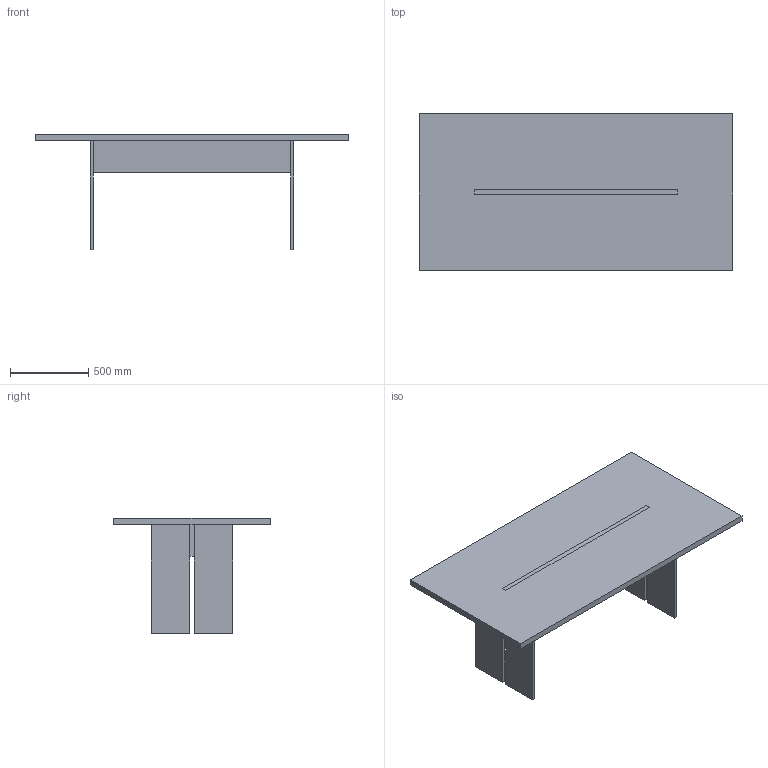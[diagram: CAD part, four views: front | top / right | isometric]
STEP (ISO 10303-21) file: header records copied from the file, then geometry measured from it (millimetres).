
FILE_DESCRIPTION(/* description */ (''),/* implementation_level */ '2;1');
FILE_NAME(/* name */ 'LLT_WOOD_200x100',/* time_stamp */ '2016-06-09T11:54:05+02:00',/* author */ (''),/* organization */ (''),/* preprocessor_version */ 'ST-DEVELOPER v10',/* originating_system */ '',/* authorisation */ '');
FILE_SCHEMA (('CONFIG_CONTROL_DESIGN'));
Length unit declared in the file: millimetre
Products named in the file (1): 1
Bounding box: 2000 x 1000 x 735 mm (x, y, z)
Volume: 100714490 mm3; surface area: 6487024 mm2
Topology: 6 solids, 6 shells, 40 faces, 84 edges, 56 vertices
Faces by surface type: plane 40
Entity records: 1004 total; most frequent: CARTESIAN_POINT 266, ORIENTED_EDGE 168, EDGE_CURVE 84, B_SPLINE_CURVE_WITH_KNOTS 84, VERTEX_POINT 56, DIRECTION 44, EDGE_LOOP 42, AXIS2_PLACEMENT_3D 42
